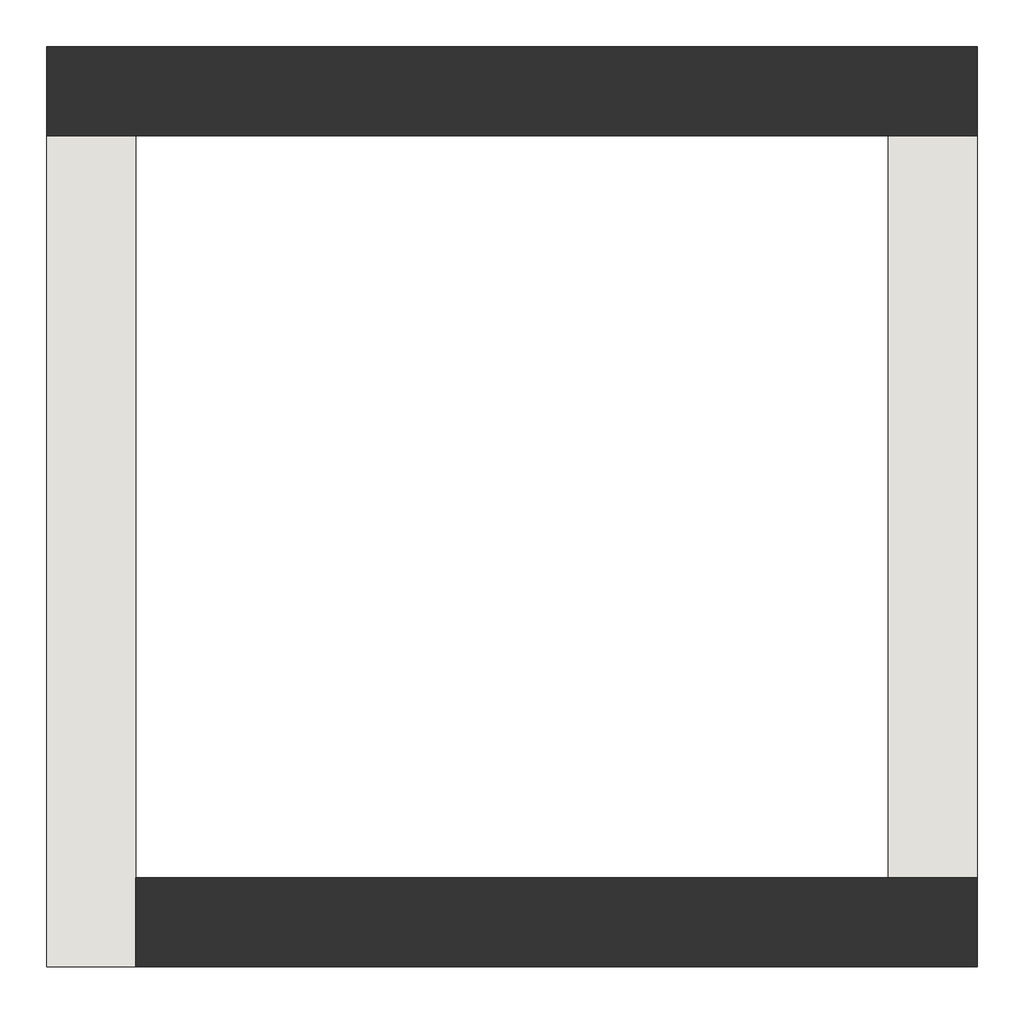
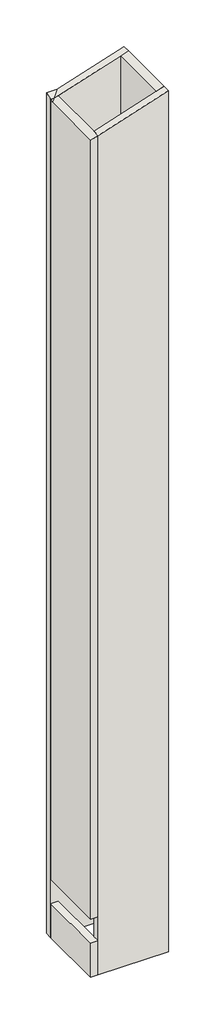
# One storey: 4 walls.
"""IFC4 building model written with IfcOpenShell, lengths in millimetres."""

import ifcopenshell
import ifcopenshell.guid

model = None  # the IFC model being written
_history = None  # IfcOwnerHistory: only IFC2X3 demands one
_inside = {}  # id of a spatial element -> (the spatial element, [elements in it])
_under = {}  # id of a project, library or spatial element -> (it, [spatial elements below it])
_declared = {}  # id of a project -> (the project, [libraries it declares])
_typed = {}  # id of a type object -> (the type object, [elements of that type])
_made_of = {}  # id of a material, layer set ... -> (it, [elements and type objects made of it])


def new_model(schema):
    """Start an empty IFC model of exactly this schema.

    Asked for "IFC4X3", IfcOpenShell would pick the latest addendum, in which some entities
    have other attributes; the version numbers below select the first issue.
    IFC2X3 requires an IfcOwnerHistory on every rooted entity: one is made here for all.
    """
    global model, _history
    if schema == "IFC4X3":
        model = ifcopenshell.file(schema_version=(4, 3, 0, 0))
    else:
        model = ifcopenshell.file(schema=schema)
    _inside.clear()
    _under.clear()
    _declared.clear()
    _typed.clear()
    _made_of.clear()
    _history = None
    if model.schema == "IFC2X3":
        org = make("IfcOrganization", Name="unknown")
        user = make(
            "IfcPersonAndOrganization",
            ThePerson=make("IfcPerson", FamilyName="unknown"),
            TheOrganization=org,
        )
        app = make(
            "IfcApplication",
            ApplicationDeveloper=org,
            Version="unknown",
            ApplicationFullName="unknown",
            ApplicationIdentifier="unknown",
        )
        _history = make(
            "IfcOwnerHistory",
            OwningUser=user,
            OwningApplication=app,
            ChangeAction="ADDED",
            CreationDate=0,
        )
    return model


def make(cls, **values):
    """One entity of the class cls with the attributes given. An attribute that is None is left unset."""
    return model.create_entity(
        cls, **{name: value for name, value in values.items() if value is not None}
    )


def rooted(cls, **values):
    """An entity with a GlobalId (a new one), such as an element, a storey or a relation."""
    return make(cls, GlobalId=ifcopenshell.guid.new(), OwnerHistory=_history, **values)


def si_unit(unit_type, name, prefix=None):
    """IfcSIUnit, for example si_unit("LENGTHUNIT", "METRE", prefix="MILLI")."""
    return make("IfcSIUnit", UnitType=unit_type, Prefix=prefix, Name=name)


def assignment(units):
    """IfcUnitAssignment: the units of a project."""
    return None if units is None else make("IfcUnitAssignment", Units=units)


def point(xyz):
    """IfcCartesianPoint."""
    return None if xyz is None else make("IfcCartesianPoint", Coordinates=xyz)


def direction(xyz):
    """IfcDirection."""
    return None if xyz is None else make("IfcDirection", DirectionRatios=xyz)


def frame(location, z_axis=None, x_axis=None):
    """IfcAxis2Placement3D, a coordinate frame: its origin and axes. An axis left out is left unset."""
    return make(
        "IfcAxis2Placement3D",
        Location=point(location),
        Axis=direction(z_axis),
        RefDirection=direction(x_axis),
    )


def origin():
    """The frame at (0, 0, 0) with its axes left unset."""
    return frame((0.0, 0.0, 0.0))


def place(relative_to, where):
    """IfcLocalPlacement: puts the frame where relative to a parent placement (None: the world)."""
    return make(
        "IfcLocalPlacement", PlacementRelTo=relative_to, RelativePlacement=where
    )


def context(
    kind, dimensions, precision=None, world=None, true_north=None, identifier=None
):
    """IfcGeometricRepresentationContext, for example the 3D "Model" context."""
    return make(
        "IfcGeometricRepresentationContext",
        ContextIdentifier=identifier,
        ContextType=kind,
        CoordinateSpaceDimension=dimensions,
        Precision=precision,
        WorldCoordinateSystem=world,
        TrueNorth=true_north,
    )


def project(units=None, contexts=None):
    """IfcProject with its units and contexts."""
    return rooted(
        "IfcProject",
        Name="project",
        RepresentationContexts=contexts,
        UnitsInContext=assignment(units),
    )


def spatial(cls, under=None, at=None, **own):
    """A site, building, storey or space (cls), placed at a placement, below another one or the project."""
    s = rooted(cls, ObjectPlacement=at, **own)
    if under is not None:
        _under.setdefault(under.id(), (under, []))[1].append(s)
    return s


def faces_of(points, faces, orient=None, outer=None):
    """IfcFace entities. A face is a list of loops; a loop is a list of indices into points, from 0.

    orient and outer hold one flag for each loop. By default every Orientation is true, the
    first loop of a face is its IfcFaceOuterBound and the others are IfcFaceBound.
    """
    made = []
    for i, loops in enumerate(faces):
        bounds = []
        for j, loop in enumerate(loops):
            is_outer = j == 0 if outer is None else outer[i][j]
            bounds.append(
                make(
                    "IfcFaceOuterBound" if is_outer else "IfcFaceBound",
                    Bound=make("IfcPolyLoop", Polygon=[points[k] for k in loop]),
                    Orientation=True if orient is None else orient[i][j],
                )
            )
        made.append(make("IfcFace", Bounds=bounds))
    return made


def faceted_brep(points, faces, orient=None, outer=None, voids=None):
    """IfcFacetedBrep: a solid bounded by flat faces; with voids (closed shells), ...WithVoids."""
    shared = [point(p) for p in points]
    hull = make("IfcClosedShell", CfsFaces=faces_of(shared, faces, orient, outer))
    if voids is None:
        return make("IfcFacetedBrep", Outer=hull)
    return make(
        "IfcFacetedBrepWithVoids",
        Outer=hull,
        Voids=[
            make(cls, CfsFaces=faces_of(shared, fs, o, b)) for cls, fs, o, b in voids
        ],
    )


def shape(context_of_items, identifier, shape_type, items):
    """IfcShapeRepresentation: the items that make up one representation, for example the "Body"."""
    return make(
        "IfcShapeRepresentation",
        ContextOfItems=context_of_items,
        RepresentationIdentifier=identifier,
        RepresentationType=shape_type,
        Items=items,
    )


def made_of(thing, what):
    """Note that an element or type object is made of a material, layer set ...; save() writes the relation."""
    if what is not None:
        _made_of.setdefault(what.id(), (what, []))[1].append(thing)
    return thing


def element(
    cls,
    number,
    at=None,
    inside=None,
    cuts=None,
    type_object=None,
    material=None,
    context=None,
    identifier="Body",
    shape_type=None,
    held_by="IfcProductDefinitionShape",
    body=None,
    shapes=None,
    **own,
):
    """One element of the class cls, such as IfcWall. Its Tag is "e" and its number.

    at: its placement. inside: the storey or other place that contains it. cuts: it is an
    opening in that element (IfcRelVoidsElement). A single representation is given by context,
    identifier, shape_type and body (its items); several are given by shapes. held_by: the class
    of the entity that holds the representations. save() writes the other relations.
    """
    e = rooted(cls, Tag="e%d" % number, ObjectPlacement=at, **own)
    if body is not None:
        shapes = [shape(context, identifier, shape_type, body)]
    if shapes is not None:
        e.Representation = make(held_by, Representations=shapes)
    if inside is not None:
        _inside.setdefault(inside.id(), (inside, []))[1].append(e)
    if cuts is not None:
        rooted(
            "IfcRelVoidsElement", RelatingBuildingElement=cuts, RelatedOpeningElement=e
        )
    if type_object is not None:
        _typed.setdefault(type_object.id(), (type_object, []))[1].append(e)
    return made_of(e, material)


def aggregate(whole, parts):
    """IfcRelAggregates: a whole, such as a stair, and the parts it consists of."""
    return rooted("IfcRelAggregates", RelatingObject=whole, RelatedObjects=parts)


def save(model, path):
    """Write the relations noted so far, then the file.

    IfcRelAggregates (storeys below a building ...), IfcRelContainedInSpatialStructure (elements
    in a storey), IfcRelDefinesByType, IfcRelAssociatesMaterial and IfcRelDeclares: one each for
    every whole, place, type object, material and project.
    """
    for whole, parts in _under.values():
        aggregate(whole, parts)
    for where, things in _inside.values():
        rooted(
            "IfcRelContainedInSpatialStructure",
            RelatedElements=things,
            RelatingStructure=where,
        )
    for kind, things in _typed.values():
        rooted("IfcRelDefinesByType", RelatedObjects=things, RelatingType=kind)
    for what, things in _made_of.values():
        rooted("IfcRelAssociatesMaterial", RelatedObjects=things, RelatingMaterial=what)
    for by, libraries in _declared.values():
        rooted("IfcRelDeclares", RelatingContext=by, RelatedDefinitions=libraries)
    model.write(path)


model = new_model("IFC4")

# Units and contexts
model_context = context("Model", 3, world=origin())
ifc_project = project(units=[si_unit("LENGTHUNIT", "METRE", prefix="MILLI")], contexts=[model_context])

# Site, building, storey
site = spatial("IfcSite", under=ifc_project)
building = spatial("IfcBuilding", under=site)
storey = spatial("IfcBuildingStorey", under=building, Name="Zaklady", Elevation=-4500.0)

# Walls
placement = place(None, origin())
element("IfcWall", 1, ObjectType="Interior - 170mm", at=placement, inside=storey, context=model_context, shape_type="Brep", body=[
    faceted_brep([(362.8037835, 1117.6290541, -4500.0), (-1407.1962165, 1117.6290541, -4500.0), (-1407.1962165, 1117.6290541, 15717.073837), (-1160.9948041, 1117.6290541, 15717.073837), (362.8037835, 1117.6290541, 16212.1860111), (362.8037835, 947.6290541, -4500.0), (362.8037835, 947.6290541, -3680.0), (362.8037835, 947.6290541, -3100.0), (362.8037835, 947.6290541, -400.0), (362.8037835, 947.6290541, 0.0), (362.8037835, 947.6290541, 2630.0), (362.8037835, 947.6290541, 2950.0), (362.8037835, 947.6290541, 5580.0), (362.8037835, 947.6290541, 5900.0), (362.8037835, 947.6290541, 8530.0), (362.8037835, 947.6290541, 8850.0), (362.8037835, 947.6290541, 11480.0), (362.8037835, 947.6290541, 11800.0), (362.8037835, 947.6290541, 16212.1860111), (192.8037835, 947.6290541, 16156.9496628), (-1237.1962165, 947.6290541, 15692.3144972), (-1330.9948041, 947.6290541, 15661.8374886), (-1407.1962165, 947.6290541, 15661.8374886), (-1407.1962165, 947.6290541, -3100.0), (-1407.1962165, 947.6290541, -3680.0), (-1407.1962165, 947.6290541, -4500.0), (-1237.1962165, 947.6290541, -4500.0), (192.8037835, 947.6290541, -4500.0)], [[[0, 1, 2, 3, 4]], [[5, 6, 7, 8, 9, 10, 11, 12, 13, 14, 15, 16, 17, 18, 19, 20, 21, 22, 23, 24, 25, 26, 27]], [[1, 0, 5, 27, 26, 25]], [[2, 1, 25, 24, 23, 22]], [[0, 4, 18, 17, 16, 15, 14, 13, 12, 11, 10, 9, 8, 7, 6, 5]], [[4, 3, 21, 20, 19, 18]], [[3, 2, 22, 21]]]),
])
element("IfcWall", 2, ObjectType="Interior - 170mm", at=placement, inside=storey, context=model_context, shape_type="Brep", body=[
    faceted_brep([(-1407.1962165, 947.6290541, -4500.0), (-1407.1962165, -632.3709459, -4500.0), (-1407.1962165, -632.3709459, -3680.0), (-1407.1962165, 947.6290541, -3680.0), (-1237.1962165, -632.3709459, -4500.0), (-1237.1962165, -462.3709459, -4500.0), (-1237.1962165, 947.6290541, -4500.0), (-1237.1962165, 947.6290541, -3680.0), (-1237.1962165, -462.3709459, -3680.0), (-1237.1962165, -632.3709459, -3680.0)], [[[0, 1, 2, 3]], [[4, 5, 6, 7, 8, 9]], [[1, 0, 6, 5, 4]], [[1, 4, 9, 2]], [[6, 0, 3, 7]], [[3, 2, 9, 8, 7]]]),
    faceted_brep([(-1407.1962165, 871.4276416, 15637.0781488), (-1407.1962165, 947.6290541, 15661.8374886), (-1407.1962165, 947.6290541, -3100.0), (-1407.1962165, -632.3709459, -3100.0), (-1407.1962165, -632.3709459, 15637.0781488), (-1237.1962165, 947.6290541, 15692.3144972), (-1237.1962165, -462.3709459, 15692.3144972), (-1237.1962165, -632.3709459, 15692.3144972), (-1237.1962165, -632.3709459, -3100.0), (-1237.1962165, -462.3709459, -3100.0), (-1237.1962165, 947.6290541, -3100.0), (-1330.9948041, 947.6290541, 15661.8374886)], [[[0, 1, 2, 3, 4]], [[5, 6, 7, 8, 9, 10]], [[7, 4, 3, 8]], [[11, 5, 10, 2, 1]], [[1, 0, 11]], [[7, 6, 5, 11, 0, 4]], [[3, 2, 10, 9, 8]]]),
])
element("IfcWall", 3, ObjectType="Interior - 170mm", at=placement, inside=storey, context=model_context, shape_type="Brep", body=[
    faceted_brep([(-1237.1962165, -632.3709459, -4500.0), (362.8037835, -632.3709459, -4500.0), (362.8037835, -632.3709459, 16212.1860111), (-1237.1962165, -632.3709459, 15692.3144972), (-1237.1962165, -632.3709459, -3100.0), (-1237.1962165, -632.3709459, -3680.0), (-1237.1962165, -462.3709459, -4500.0), (-1237.1962165, -462.3709459, 15692.3144972), (192.8037835, -462.3709459, 16156.9496628), (362.8037835, -462.3709459, 16212.1860111), (362.8037835, -462.3709459, 11800.0), (362.8037835, -462.3709459, 11480.0), (362.8037835, -462.3709459, 8850.0), (362.8037835, -462.3709459, 8530.0), (362.8037835, -462.3709459, 5900.0), (362.8037835, -462.3709459, 5580.0), (362.8037835, -462.3709459, 2950.0), (362.8037835, -462.3709459, 2630.0), (362.8037835, -462.3709459, -3100.0), (362.8037835, -462.3709459, -3680.0), (362.8037835, -462.3709459, -4500.0), (192.8037835, -462.3709459, -4500.0)], [[[0, 1, 2, 3, 4, 5]], [[6, 7, 8, 9, 10, 11, 12, 13, 14, 15, 16, 17, 18, 19, 20, 21]], [[1, 0, 6, 21, 20]], [[2, 1, 20, 19, 18, 17, 16, 15, 14, 13, 12, 11, 10, 9]], [[0, 5, 4, 3, 7, 6]], [[3, 2, 9, 8, 7]]]),
])
element("IfcWall", 4, ObjectType="Interior - 170mm", at=placement, inside=storey, context=model_context, shape_type="Brep", body=[
    faceted_brep([(362.8037835, -462.3709459, -4500.0), (362.8037835, 947.6290541, -4500.0), (362.8037835, 947.6290541, -3680.0), (362.8037835, -462.3709459, -3680.0), (192.8037835, 947.6290541, -4500.0), (192.8037835, -462.3709459, -4500.0), (192.8037835, -462.3709459, -3680.0), (192.8037835, 947.6290541, -3680.0)], [[[0, 1, 2, 3]], [[4, 5, 6, 7]], [[1, 0, 5, 4]], [[5, 0, 3, 6]], [[1, 4, 7, 2]], [[3, 2, 7, 6]]]),
    faceted_brep([(362.8037835, 947.6290541, 16212.1860111), (362.8037835, -462.3709459, 16212.1860111), (362.8037835, -462.3709459, 11800.0), (362.8037835, -299.8709459, 11800.0), (362.8037835, -299.8709459, 13800.0), (362.8037835, 800.1290541, 13800.0), (362.8037835, 800.1290541, 11800.0), (362.8037835, 947.6290541, 11800.0), (192.8037835, -462.3709459, 16156.9496628), (192.8037835, 947.6290541, 16156.9496628), (192.8037835, 947.6290541, 11800.0), (192.8037835, 800.1290541, 11800.0), (192.8037835, 800.1290541, 13800.0), (192.8037835, -299.8709459, 13800.0), (192.8037835, -299.8709459, 11800.0), (192.8037835, -462.3709459, 11800.0)], [[[0, 1, 2, 3, 4, 5, 6, 7]], [[8, 9, 10, 11, 12, 13, 14, 15]], [[1, 8, 15, 2]], [[9, 0, 7, 10]], [[1, 0, 9, 8]], [[4, 3, 14, 13]], [[5, 4, 13, 12]], [[6, 5, 12, 11]], [[3, 2, 15, 14]], [[7, 6, 11, 10]]]),
    faceted_brep([(362.8037835, -299.8709459, 0.0), (362.8037835, -299.8709459, 2000.0), (362.8037835, 800.1290541, 2000.0), (362.8037835, 800.1290541, 0.0), (362.8037835, 947.6290541, 0.0), (362.8037835, 947.6290541, 2630.0), (362.8037835, -462.3709459, 2630.0), (362.8037835, -462.3709459, 0.0), (362.8037835, -462.3709459, -400.0), (362.8037835, -462.3709459, -3100.0), (362.8037835, -299.8709459, -3100.0), (362.8037835, -299.8709459, -1100.0), (362.8037835, 800.1290541, -1100.0), (362.8037835, 800.1290541, -3100.0), (362.8037835, 947.6290541, -3100.0), (362.8037835, 947.6290541, -400.0), (362.8037835, -162.3709459, -400.0), (362.8037835, -162.3709459, 0.0), (192.8037835, -299.8709459, 2000.0), (192.8037835, -299.8709459, 0.0), (192.8037835, -162.3709459, 0.0), (192.8037835, -162.3709459, -400.0), (192.8037835, 947.6290541, -400.0), (192.8037835, 947.6290541, -3100.0), (192.8037835, 800.1290541, -3100.0), (192.8037835, 800.1290541, -1100.0), (192.8037835, -299.8709459, -1100.0), (192.8037835, -299.8709459, -3100.0), (192.8037835, -462.3709459, -3100.0), (192.8037835, -462.3709459, 2630.0), (192.8037835, 947.6290541, 2630.0), (192.8037835, 947.6290541, 0.0), (192.8037835, 800.1290541, 0.0), (192.8037835, 800.1290541, 2000.0)], [[[0, 1, 2, 3, 4, 5, 6, 7, 8, 9, 10, 11, 12, 13, 14, 15, 16, 17]], [[18, 19, 20, 21, 22, 23, 24, 25, 26, 27, 28, 29, 30, 31, 32, 33]], [[28, 9, 8, 7, 6, 29]], [[14, 23, 22, 15]], [[4, 31, 30, 5]], [[19, 0, 17, 20]], [[1, 0, 19, 18]], [[2, 1, 18, 33]], [[3, 2, 33, 32]], [[11, 10, 27, 26]], [[12, 11, 26, 25]], [[13, 12, 25, 24]], [[14, 13, 24, 23]], [[10, 9, 28, 27]], [[21, 16, 15, 22]], [[4, 3, 32, 31]], [[16, 21, 20, 17]], [[6, 5, 30, 29]]]),
    faceted_brep([(362.8037835, -299.8709459, 2950.0), (362.8037835, -299.8709459, 4950.0), (362.8037835, 800.1290541, 4950.0), (362.8037835, 800.1290541, 2950.0), (362.8037835, 947.6290541, 2950.0), (362.8037835, 947.6290541, 5580.0), (362.8037835, -462.3709459, 5580.0), (362.8037835, -462.3709459, 2950.0), (192.8037835, -299.8709459, 4950.0), (192.8037835, -299.8709459, 2950.0), (192.8037835, -462.3709459, 2950.0), (192.8037835, -462.3709459, 5580.0), (192.8037835, 947.6290541, 5580.0), (192.8037835, 947.6290541, 2950.0), (192.8037835, 800.1290541, 2950.0), (192.8037835, 800.1290541, 4950.0)], [[[0, 1, 2, 3, 4, 5, 6, 7]], [[8, 9, 10, 11, 12, 13, 14, 15]], [[10, 7, 6, 11]], [[4, 13, 12, 5]], [[1, 0, 9, 8]], [[2, 1, 8, 15]], [[3, 2, 15, 14]], [[0, 7, 10, 9]], [[4, 3, 14, 13]], [[6, 5, 12, 11]]]),
    faceted_brep([(362.8037835, -299.8709459, 5900.0), (362.8037835, -299.8709459, 7900.0), (362.8037835, 800.1290541, 7900.0), (362.8037835, 800.1290541, 5900.0), (362.8037835, 947.6290541, 5900.0), (362.8037835, 947.6290541, 8530.0), (362.8037835, -462.3709459, 8530.0), (362.8037835, -462.3709459, 5900.0), (192.8037835, -299.8709459, 7900.0), (192.8037835, -299.8709459, 5900.0), (192.8037835, -462.3709459, 5900.0), (192.8037835, -462.3709459, 8530.0), (192.8037835, 947.6290541, 8530.0), (192.8037835, 947.6290541, 5900.0), (192.8037835, 800.1290541, 5900.0), (192.8037835, 800.1290541, 7900.0)], [[[0, 1, 2, 3, 4, 5, 6, 7]], [[8, 9, 10, 11, 12, 13, 14, 15]], [[6, 11, 10, 7]], [[12, 5, 4, 13]], [[1, 0, 9, 8]], [[2, 1, 8, 15]], [[3, 2, 15, 14]], [[6, 5, 12, 11]], [[4, 3, 14, 13]], [[0, 7, 10, 9]]]),
    faceted_brep([(362.8037835, -299.8709459, 8850.0), (362.8037835, -299.8709459, 10850.0), (362.8037835, 800.1290541, 10850.0), (362.8037835, 800.1290541, 8850.0), (362.8037835, 947.6290541, 8850.0), (362.8037835, 947.6290541, 11480.0), (362.8037835, -462.3709459, 11480.0), (362.8037835, -462.3709459, 8850.0), (192.8037835, -299.8709459, 10850.0), (192.8037835, -299.8709459, 8850.0), (192.8037835, -462.3709459, 8850.0), (192.8037835, -462.3709459, 11480.0), (192.8037835, 947.6290541, 11480.0), (192.8037835, 947.6290541, 8850.0), (192.8037835, 800.1290541, 8850.0), (192.8037835, 800.1290541, 10850.0)], [[[0, 1, 2, 3, 4, 5, 6, 7]], [[8, 9, 10, 11, 12, 13, 14, 15]], [[10, 7, 6, 11]], [[4, 13, 12, 5]], [[1, 0, 9, 8]], [[2, 1, 8, 15]], [[3, 2, 15, 14]], [[0, 7, 10, 9]], [[4, 3, 14, 13]], [[6, 5, 12, 11]]]),
])

save(model, "model.ifc")
